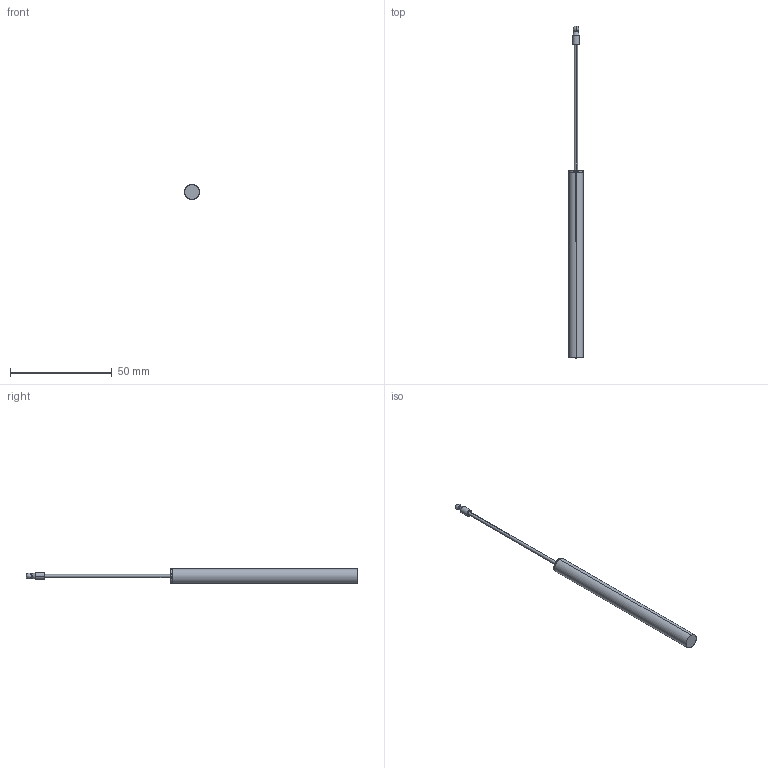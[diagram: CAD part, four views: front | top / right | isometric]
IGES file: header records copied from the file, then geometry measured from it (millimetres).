
Start section: SolidWorks IGES file using analytic representation for surfaces
Bounding box: 7.2 x 163 x 7.2 mm (x, y, z)
Surface area: 2676.7 mm2 (no closed solid volume)
Topology: 0 solids, 0 shells, 22 faces, 284 edges, 282 vertices
Faces by surface type: revolution 16, bspline 6
